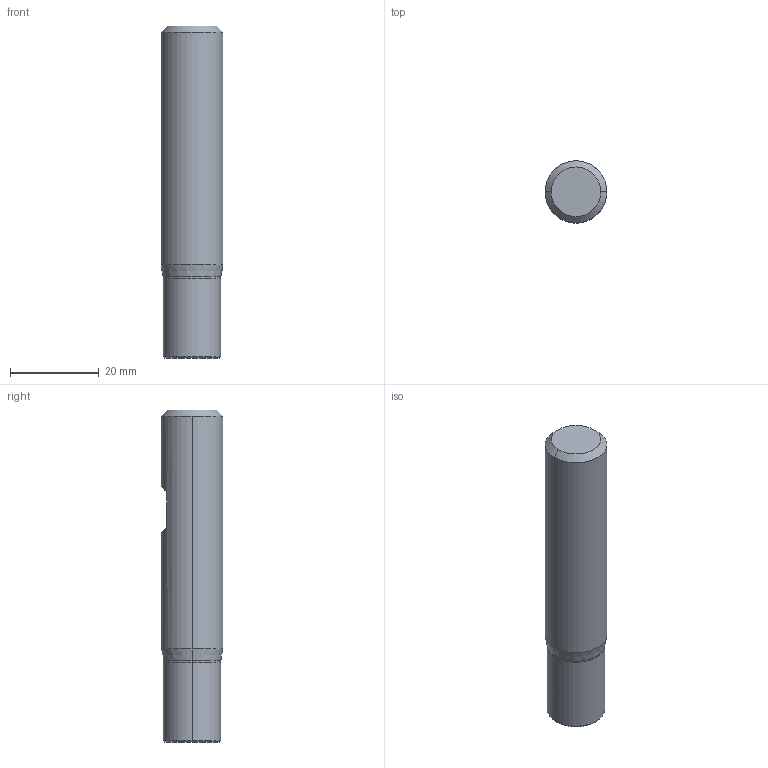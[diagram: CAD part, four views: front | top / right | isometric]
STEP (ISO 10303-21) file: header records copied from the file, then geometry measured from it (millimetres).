
FILE_DESCRIPTION (( 'STEP AP214' ), '1' );
FILE_NAME ('831.130.10_3D-model.step', '2022-02-19T10:39:56', ( '' ), ( '' ), 'SwSTEP 2.0', 'SolidWorks 2020', '' );
FILE_SCHEMA (( 'AUTOMOTIVE_DESIGN' ));
Length unit declared in the file: millimetre
Products named in the file (3): CUT-3D^Baugr49; NOCUT-3D^Baugr49; 831.130.10_3D-model
Assembly tree (2 placements, depth 2):
  831.130.10_3D-model
    CUT-3D^Baugr49
    NOCUT-3D^Baugr49
Bounding box: 14 x 14 x 75 mm (x, y, z)
Volume: 11022.5 mm3; surface area: 3746.2 mm2
Topology: 2 solids, 2 shells, 19 faces, 34 edges, 20 vertices
Faces by surface type: plane 7, cone 6, cylinder 4, torus 2
Entity records: 584 total; most frequent: DIRECTION 104, CARTESIAN_POINT 87, ORIENTED_EDGE 68, AXIS2_PLACEMENT_3D 45, EDGE_CURVE 34, VERTEX_POINT 20, EDGE_LOOP 20, ADVANCED_FACE 19
